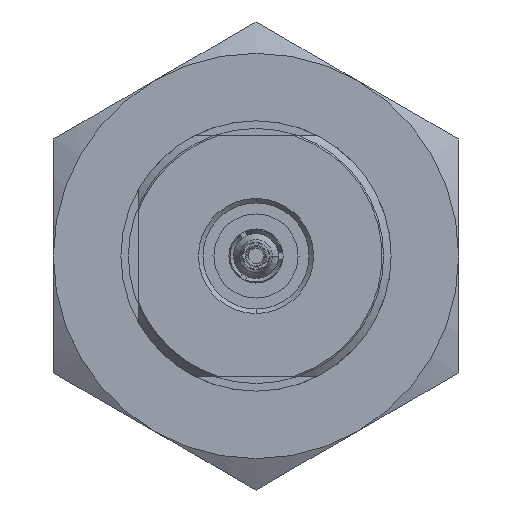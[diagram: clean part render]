
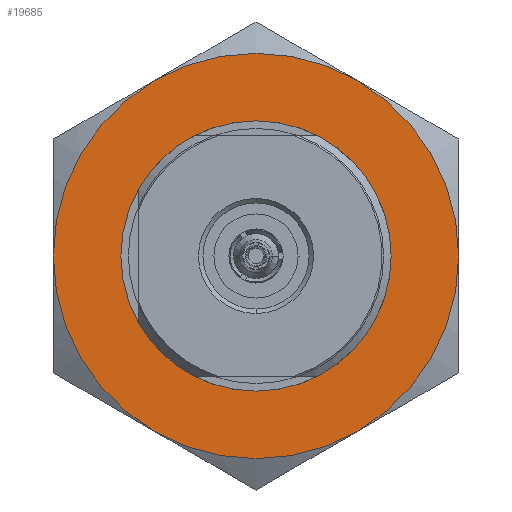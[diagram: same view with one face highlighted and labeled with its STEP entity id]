
A CAD part, left-side view. The second image highlights one B-rep face of the part: STEP entity #19685.
In plain terms, the highlighted planar face has unit normal (-1, 0, 0).
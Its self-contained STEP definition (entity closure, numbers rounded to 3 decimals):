
#19248=CARTESIAN_POINT('',(0.,0.,
0.));
#19249=DIRECTION('',(1.,0.,0.));
#19250=DIRECTION('',(0.,0.,1.));
#19251=AXIS2_PLACEMENT_3D('',#19248,#19249,#19250);
#19253=CARTESIAN_POINT('',(0.,0.,
0.));
#19254=DIRECTION('',(1.,0.,0.));
#19255=DIRECTION('',(0.,0.,-1.));
#19256=AXIS2_PLACEMENT_3D('',#19253,#19254,#19255);
#19258=CARTESIAN_POINT('',(0.,0.,0.));
#19259=DIRECTION('',(1.,0.,0.));
#19260=DIRECTION('',(0.,1.,0.));
#19261=AXIS2_PLACEMENT_3D('',#19258,#19259,#19260);
#19263=CARTESIAN_POINT('',(0.,0.,0.));
#19264=DIRECTION('',(1.,0.,0.));
#19265=DIRECTION('',(0.,0.5,0.866));
#19266=AXIS2_PLACEMENT_3D('',#19263,#19264,#19265);
#19268=CARTESIAN_POINT('',(0.,0.,0.));
#19269=DIRECTION('',(1.,0.,0.));
#19270=DIRECTION('',(0.,-1.,0.));
#19271=AXIS2_PLACEMENT_3D('',#19268,#19269,#19270);
#19273=CARTESIAN_POINT('',(0.,0.,0.));
#19274=DIRECTION('',(1.,0.,0.));
#19275=DIRECTION('',(0.,-0.5,-0.866));
#19276=AXIS2_PLACEMENT_3D('',#19273,#19274,#19275);
#19404=CARTESIAN_POINT('',(0.,13.5,0.));
#19437=CARTESIAN_POINT('',(0.,0.,0.));
#19438=DIRECTION('',(-1.,0.,0.));
#19439=DIRECTION('',(0.,-1.,0.));
#19440=AXIS2_PLACEMENT_3D('',#19437,#19438,#19439);
#19442=CARTESIAN_POINT('',(0.,0.,0.));
#19443=DIRECTION('',(-1.,0.,0.));
#19444=DIRECTION('',(0.,1.,0.));
#19445=AXIS2_PLACEMENT_3D('',#19442,#19443,#19444);
#19454=CARTESIAN_POINT('',(0.,-6.75,
11.691));
#19612=CARTESIAN_POINT('',(0.,0.,8.7));
#19613=CARTESIAN_POINT('',(0.,0.,-8.7));
#19614=VERTEX_POINT('',#19612);
#19615=VERTEX_POINT('',#19613);
#19629=VERTEX_POINT('',#19404);
#19633=VERTEX_POINT('',#19454);
#19636=CARTESIAN_POINT('',(0.,6.75,11.691));
#19637=VERTEX_POINT('',#19636);
#19638=CARTESIAN_POINT('',(0.,-13.5,0.));
#19639=CARTESIAN_POINT('',(0.,-6.75,-11.691));
#19640=VERTEX_POINT('',#19638);
#19641=VERTEX_POINT('',#19639);
#19642=CARTESIAN_POINT('',(0.,6.75,-11.691));
#19643=VERTEX_POINT('',#19642);
#19660=CARTESIAN_POINT('',(0.,0.,0.));
#19661=DIRECTION('',(1.,0.,0.));
#19662=DIRECTION('',(0.,-1.,0.));
#19663=AXIS2_PLACEMENT_3D('',#19660,#19661,#19662);
#19664=PLANE('',#19663);
#19666=ORIENTED_EDGE('',*,*,#19665,.F.);
#19668=ORIENTED_EDGE('',*,*,#19667,.T.);
#19670=ORIENTED_EDGE('',*,*,#19669,.T.);
#19672=ORIENTED_EDGE('',*,*,#19671,.F.);
#19674=ORIENTED_EDGE('',*,*,#19673,.T.);
#19676=ORIENTED_EDGE('',*,*,#19675,.T.);
#19677=EDGE_LOOP('',(#19666,#19668,#19670,#19672,#19674,#19676));
#19678=FACE_OUTER_BOUND('',#19677,.F.);
#19680=ORIENTED_EDGE('',*,*,#19679,.F.);
#19682=ORIENTED_EDGE('',*,*,#19681,.F.);
#19683=EDGE_LOOP('',(#19680,#19682));
#19684=FACE_BOUND('',#19683,.F.);
#19685=ADVANCED_FACE('',(#19678,#19684),#19664,.F.);
#19252=CIRCLE('',#19251,8.7);
#19257=CIRCLE('',#19256,8.7);
#19262=CIRCLE('',#19261,13.5);
#19267=CIRCLE('',#19266,13.5);
#19272=CIRCLE('',#19271,13.5);
#19277=CIRCLE('',#19276,13.5);
#19441=CIRCLE('',#19440,13.5);
#19446=CIRCLE('',#19445,13.5);
#19665=EDGE_CURVE('',#19629,#19643,#19446,.T.);
#19667=EDGE_CURVE('',#19629,#19637,#19262,.T.);
#19669=EDGE_CURVE('',#19637,#19633,#19267,.T.);
#19671=EDGE_CURVE('',#19640,#19633,#19441,.T.);
#19673=EDGE_CURVE('',#19640,#19641,#19272,.T.);
#19675=EDGE_CURVE('',#19641,#19643,#19277,.T.);
#19679=EDGE_CURVE('',#19614,#19615,#19252,.T.);
#19681=EDGE_CURVE('',#19615,#19614,#19257,.T.);
